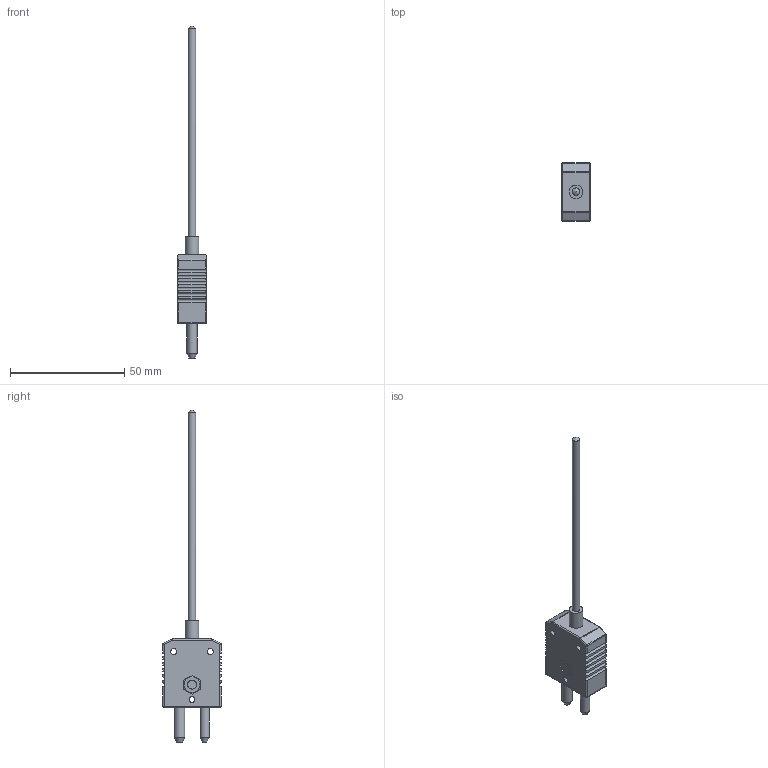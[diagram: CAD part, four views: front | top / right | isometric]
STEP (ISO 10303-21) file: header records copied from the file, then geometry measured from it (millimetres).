
FILE_DESCRIPTION (( 'STEP AP203' ), '1' );
FILE_NAME ('YIT75S-2(0).STEP', '2025-07-30T05:41:37', ( '' ), ( '' ), 'SwSTEP 2.0', 'SolidWorks 2024', '' );
FILE_SCHEMA (( 'CONFIG_CONTROL_DESIGN' ));
Length unit declared in the file: millimetre
Products named in the file (1): YIT75S-2(0)
Bounding box: 12.5 x 25.4 x 145 mm (x, y, z)
Volume: 10407.8 mm3; surface area: 5007.1 mm2
Topology: 1 solids, 1 shells, 151 faces, 388 edges, 243 vertices
Faces by surface type: cylinder 68, plane 59, sphere 12, cone 9, torus 3
Full cylindrical faces by diameter (mm): 2.6 x3, 3.2 x1, 3.9 x2, 4 x4, 4.7 x1, 6 x1, 6.7 x1, 7 x1
Entity records: 4804 total; most frequent: CARTESIAN_POINT 1279, ORIENTED_EDGE 702, DIRECTION 693, EDGE_CURVE 351, AXIS2_PLACEMENT_3D 254, VERTEX_POINT 232, EDGE_LOOP 187, LINE 185
